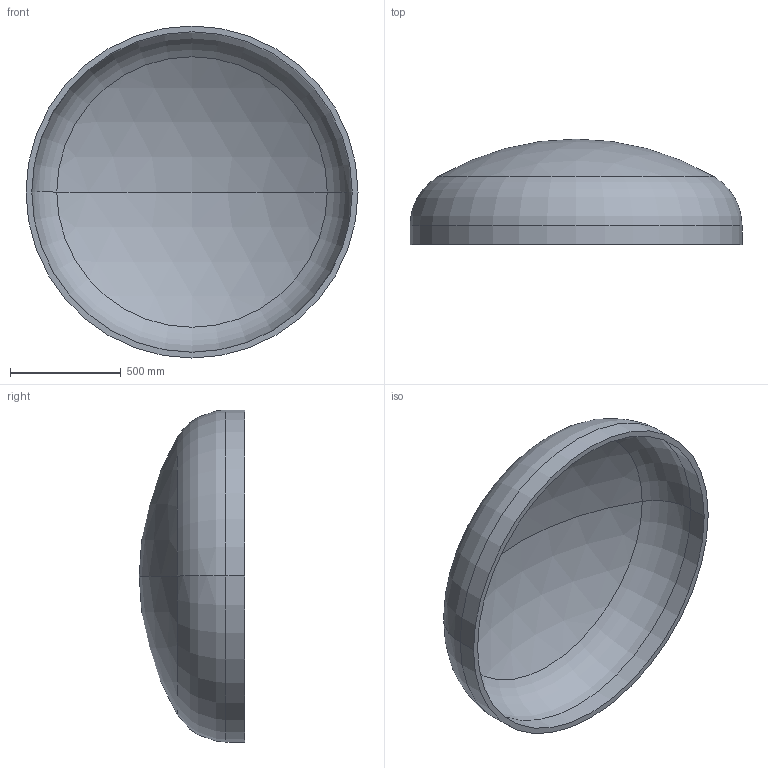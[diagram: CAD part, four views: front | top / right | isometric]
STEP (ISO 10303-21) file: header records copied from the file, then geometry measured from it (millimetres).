
FILE_DESCRIPTION (( 'STEP AP203' ), '1' );
FILE_NAME ('DIN 28013 Korbbogenform_-_Boden DIN 28013 - 1500 x 85 - I - s=26.step', '2016-07-01T10:40:54', ( '' ), ( '' ), 'SwSTEP 2.0', 'SolidWorks 2013', '' );
FILE_SCHEMA (( 'CONFIG_CONTROL_DESIGN' ));
Length unit declared in the file: millimetre
Products named in the file (1): DIN 28013 Korbbogenform_-_Boden DIN 28013 - 1500 x 85 - I - s=26
Bounding box: 1500 x 476.22 x 1500 mm (x, y, z)
Volume: 72376669.5 mm3; surface area: 5689248.5 mm2
Topology: 1 solids, 1 shells, 13 faces, 24 edges, 14 vertices
Faces by surface type: torus 4, cylinder 4, sphere 4, plane 1
Entity records: 407 total; most frequent: DIRECTION 72, CARTESIAN_POINT 52, ORIENTED_EDGE 48, AXIS2_PLACEMENT_3D 34, EDGE_CURVE 24, CIRCLE 20, EDGE_LOOP 14, VERTEX_POINT 14
